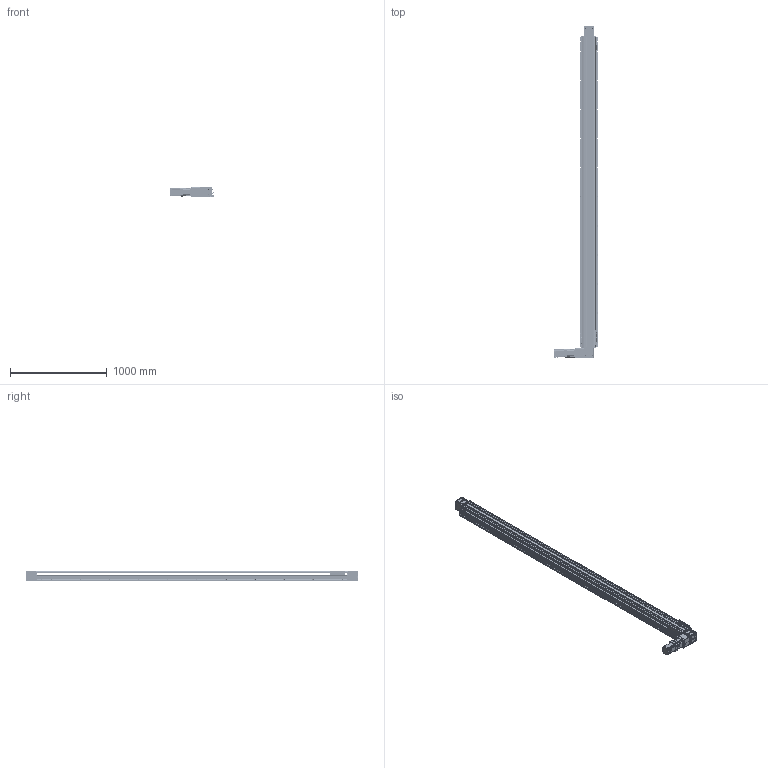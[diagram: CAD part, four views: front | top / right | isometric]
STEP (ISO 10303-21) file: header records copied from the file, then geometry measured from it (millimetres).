
FILE_DESCRIPTION(/* description */ (''),/* implementation_level */ '2;1');
FILE_NAME(/* name */ '\\192.168.0.160\disk1\HAN SHIN Master\B-설계부문\C-표준\B-2024년\BC02-표준도면\+로봇 개선표준도면\홈페이지 표준 도면\홈페이지 최종 작업 폴더\3D\HB\HB160-SL7G-N-3000-R.stp',/* time_stamp */ '2025-01-14T10:58:07+09:00',/* author */ ('user'),/* organization */ (''),/* preprocessor_version */ 'ST-DEVELOPER v18.1',/* originating_system */ 'Autodesk Inventor 2022',/* authorisation */ '');
FILE_SCHEMA (('AUTOMOTIVE_DESIGN { 1 0 10303 214 3 1 1 }'));
Products named in the file (38): HSB160-SL (TABLE TEST); BASE; HSB160 TABLE (TEST); HSB160 SHAFT-1; PGX90-H-1_3; FORNT HOUSUNG-Connecting Shaft; 6206ZZ; 6206ZZ Outer ring; 6206ZZ Shield1; 6206ZZ Inner ring; 6206ZZ Ball; 6206ZZ Shield2; HSB160 BEARING OVER; HG160 S MOTOR PLATE-B; HG160 S MOTOR PLATE-M; COUPLING COVER 400W-R1; SDWC-54C; UPCOVER; HSB160 COVER-1; REAR HOUSUNG-1---; HSB160 REAR SHAFT-2; REAR SHAFT--2; 6004ZZ; 6004ZZ Outer ring; 6004ZZ Shield1; 6004ZZ Inner ring; 6004ZZ Ball; 6004ZZ Shield2; STOPPER3; TENSION PLATE; HSB160 ARC COVER; hsr_ftht_A-M6F_grease_nipple_joint; NIPPLE CAP(신규); HR120 SENSOR DOG; SENSOR BRK(EE-SX674A); EE_SX674A; HSB160 END COVER; hg-kr73_
Assembly tree (81 placements, depth 3):
  HSB160-SL (TABLE TEST)
    BASE
    HSB160 TABLE (TEST)
    HSB160 SHAFT-1
    PGX90-H-1_3
    6206ZZ  x2
      6206ZZ Outer ring
      6206ZZ Shield1
      6206ZZ Inner ring
      6206ZZ Ball
      6206ZZ Shield2
    FORNT HOUSUNG-Connecting Shaft
    HSB160 BEARING OVER
    HG160 S MOTOR PLATE-B
    HG160 S MOTOR PLATE-M
    COUPLING COVER 400W-R1
    SDWC-54C
    UPCOVER
    HSB160 COVER-1  x2
    REAR HOUSUNG-1---
    6004ZZ  x2
      6004ZZ Outer ring
      6004ZZ Shield1
      6004ZZ Inner ring
      6004ZZ Ball
      6004ZZ Shield2
    HSB160 REAR SHAFT-2
    REAR SHAFT--2
    TENSION PLATE  x2
    HSB160 ARC COVER  x4
    STOPPER3  x4
    hsr_ftht_A-M6F_grease_nipple_joint  x4
    NIPPLE CAP(신규)  x4
    HR120 SENSOR DOG
    SENSOR BRK(EE-SX674A)  x3
    EE_SX674A  x3
    HSB160 END COVER
    hg-kr73_
Bounding box: 459.5 x 3424 x 107 mm (x, y, z)
Volume: 18328696.8 mm3; surface area: 4149908.5 mm2
Topology: 126 solids, 146 shells, 6908 faces, 18835 edges, 12357 vertices
Faces by surface type: plane 4762, cylinder 1441, cone 441, torus 151, sphere 84, bspline 29
Full cylindrical faces by diameter (mm): 2.013 x2, 2.459 x28, 3 x28, 3.242 x38, 3.3 x8, 3.5 x6, 4 x20, 4.134 x16, 4.2 x10, 4.5 x36, 4.917 x82, 5 x56, 5.1 x1, 5.34 x8, 5.35 x8, 5.4 x16, 5.5 x24, 5.6 x4, 5.9 x4, 6 x21, 6.5 x9, 6.6 x22, 6.8 x9, 7 x40, 7.6 x4, 8 x5, 8.376 x24, 8.433 x2, 8.5 x4, 9 x24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
Entity records: 132764 total; most frequent: CARTESIAN_POINT 25982, DIRECTION 22233, ORIENTED_EDGE 21342, EDGE_CURVE 10671, AXIS2_PLACEMENT_3D 7776, VERTEX_POINT 7032, LINE 6681, VECTOR 6681
